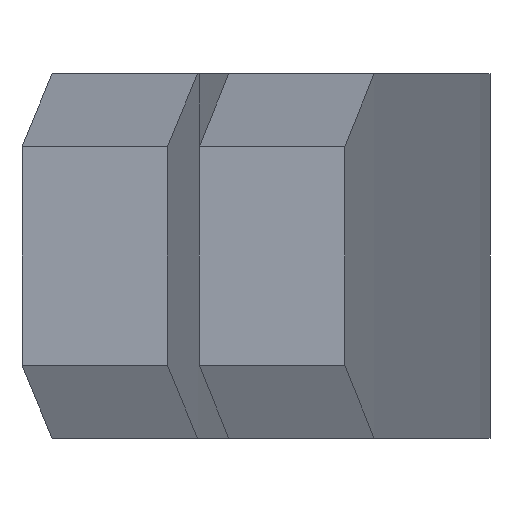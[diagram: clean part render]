
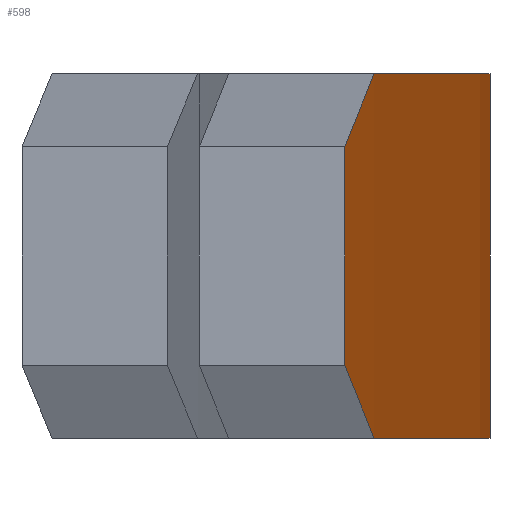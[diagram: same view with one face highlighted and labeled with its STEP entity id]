
A CAD part, left-side view. The second image highlights one B-rep face of the part: STEP entity #598.
In plain terms, the highlighted free-form (B-spline) face has degree [3, 1] with [6, 2] control points.
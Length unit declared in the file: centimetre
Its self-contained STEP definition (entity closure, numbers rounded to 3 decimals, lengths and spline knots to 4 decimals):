
#317=VERTEX_POINT('',#1535);
#318=VERTEX_POINT('',#1536);
#323=VERTEX_POINT('',#1561);
#331=VERTEX_POINT('',#1666);
#332=VERTEX_POINT('',#1667);
#334=VERTEX_POINT('',#1732);
#335=VERTEX_POINT('',#1788);
#336=VERTEX_POINT('',#1795);
#349=B_SPLINE_CURVE_WITH_KNOTS('',3,(#1531,#1532,#1533,#1534),.UNSPECIFIED.,
.F.,.U.,(4,4),(-0.5099,0.),.UNSPECIFIED.);
#353=B_SPLINE_CURVE_WITH_KNOTS('',3,(#1562,#1563,#1564,#1565,#1566,#1567),
.UNSPECIFIED.,.F.,.U.,(4,2,4),(0.5173,4.5069,8.4966),
.UNSPECIFIED.);
#358=B_SPLINE_CURVE_WITH_KNOTS('',3,(#1662,#1663,#1664,#1665),.UNSPECIFIED.,
.F.,.U.,(4,4),(-0.5099,0.),.UNSPECIFIED.);
#360=B_SPLINE_CURVE_WITH_KNOTS('',3,(#1728,#1729,#1730,#1731),.UNSPECIFIED.,
.F.,.U.,(4,4),(-0.5099,0.),.UNSPECIFIED.);
#362=B_SPLINE_CURVE_WITH_KNOTS('',3,(#1791,#1792,#1793,#1794),.UNSPECIFIED.,
.F.,.U.,(4,4),(-0.5099,0.),.UNSPECIFIED.);
#363=B_SPLINE_CURVE_WITH_KNOTS('',3,(#1809,#1810,#1811,#1812,#1813,#1814),
.UNSPECIFIED.,.F.,.U.,(4,2,4),(0.5173,4.5069,8.4966),
.UNSPECIFIED.);
#388=EDGE_CURVE('',#317,#318,#349,.T.);
#395=EDGE_CURVE('',#318,#323,#353,.F.);
#405=EDGE_CURVE('',#331,#332,#358,.T.);
#410=EDGE_CURVE('',#332,#317,#865,.T.);
#411=EDGE_CURVE('',#323,#334,#360,.T.);
#415=EDGE_CURVE('',#335,#334,#868,.T.);
#416=EDGE_CURVE('',#335,#336,#362,.T.);
#418=EDGE_CURVE('',#336,#331,#363,.T.);
#518=ORIENTED_EDGE('',*,*,#388,.T.);
#519=ORIENTED_EDGE('',*,*,#395,.T.);
#520=ORIENTED_EDGE('',*,*,#411,.T.);
#521=ORIENTED_EDGE('',*,*,#415,.F.);
#522=ORIENTED_EDGE('',*,*,#416,.T.);
#523=ORIENTED_EDGE('',*,*,#418,.T.);
#524=ORIENTED_EDGE('',*,*,#405,.T.);
#525=ORIENTED_EDGE('',*,*,#410,.T.);
#552=EDGE_LOOP('',(#518,#519,#520,#521,#522,#523,#524,#525));
#575=FACE_BOUND('',#552,.T.);
#598=ADVANCED_FACE('',(#575),#612,.T.);
#612=B_SPLINE_SURFACE_WITH_KNOTS('',3,1,((#1797,#1798),(#1799,#1800),(#1801,
#1802),(#1803,#1804),(#1805,#1806),(#1807,#1808)),.UNSPECIFIED.,.F.,.F.,
.U.,(4,2,4),(2,2),(0.5173,4.5069,8.4966),
(0.,0.5),.UNSPECIFIED.);
#865=LINE('',#1726,#1169);
#868=LINE('',#1789,#1172);
#1169=VECTOR('',#1899,1.);
#1172=VECTOR('',#1904,1.);
#1531=CARTESIAN_POINT('',(4.0082,-0.0928,0.15));
#1532=CARTESIAN_POINT('',(3.8421,-0.1065,0.1833));
#1533=CARTESIAN_POINT('',(3.676,-0.12,0.2167));
#1534=CARTESIAN_POINT('',(3.5098,-0.1331,0.25));
#1535=CARTESIAN_POINT('',(4.0082,-0.0928,0.15));
#1536=CARTESIAN_POINT('',(3.5098,-0.1331,0.25));
#1561=CARTESIAN_POINT('',(-3.5098,-0.1331,0.25));
#1562=CARTESIAN_POINT('',(-4.0082,-0.0928,0.25));
#1563=CARTESIAN_POINT('',(-2.6787,-0.2022,0.25));
#1564=CARTESIAN_POINT('',(-1.3426,-0.301,0.25));
#1565=CARTESIAN_POINT('',(1.3426,-0.301,0.25));
#1566=CARTESIAN_POINT('',(2.6787,-0.2022,0.25));
#1567=CARTESIAN_POINT('',(4.0082,-0.0928,0.25));
#1662=CARTESIAN_POINT('',(3.5098,-0.1331,-0.25));
#1663=CARTESIAN_POINT('',(3.676,-0.12,-0.2167));
#1664=CARTESIAN_POINT('',(3.8421,-0.1065,-0.1833));
#1665=CARTESIAN_POINT('',(4.0082,-0.0928,-0.15));
#1666=CARTESIAN_POINT('',(3.5098,-0.1331,-0.25));
#1667=CARTESIAN_POINT('',(4.0082,-0.0928,-0.15));
#1726=CARTESIAN_POINT('',(4.0082,-0.0928,-0.25));
#1728=CARTESIAN_POINT('',(-3.5098,-0.1331,0.25));
#1729=CARTESIAN_POINT('',(-3.676,-0.12,0.2167));
#1730=CARTESIAN_POINT('',(-3.8421,-0.1065,0.1833));
#1731=CARTESIAN_POINT('',(-4.0082,-0.0928,0.15));
#1732=CARTESIAN_POINT('',(-4.0082,-0.0928,0.15));
#1788=CARTESIAN_POINT('',(-4.0082,-0.0928,-0.15));
#1789=CARTESIAN_POINT('',(-4.0082,-0.0928,-0.25));
#1791=CARTESIAN_POINT('',(-4.0082,-0.0928,-0.15));
#1792=CARTESIAN_POINT('',(-3.8421,-0.1065,-0.1833));
#1793=CARTESIAN_POINT('',(-3.676,-0.12,-0.2167));
#1794=CARTESIAN_POINT('',(-3.5098,-0.1331,-0.25));
#1795=CARTESIAN_POINT('',(-3.5098,-0.1331,-0.25));
#1797=CARTESIAN_POINT('',(-4.0082,-0.0928,-0.25));
#1798=CARTESIAN_POINT('',(-4.0082,-0.0928,0.25));
#1799=CARTESIAN_POINT('',(-2.6787,-0.2022,-0.25));
#1800=CARTESIAN_POINT('',(-2.6787,-0.2022,0.25));
#1801=CARTESIAN_POINT('',(-1.3426,-0.301,-0.25));
#1802=CARTESIAN_POINT('',(-1.3426,-0.301,0.25));
#1803=CARTESIAN_POINT('',(1.3426,-0.301,-0.25));
#1804=CARTESIAN_POINT('',(1.3426,-0.301,0.25));
#1805=CARTESIAN_POINT('',(2.6787,-0.2022,-0.25));
#1806=CARTESIAN_POINT('',(2.6787,-0.2022,0.25));
#1807=CARTESIAN_POINT('',(4.0082,-0.0928,-0.25));
#1808=CARTESIAN_POINT('',(4.0082,-0.0928,0.25));
#1809=CARTESIAN_POINT('',(-4.0082,-0.0928,-0.25));
#1810=CARTESIAN_POINT('',(-2.6787,-0.2022,-0.25));
#1811=CARTESIAN_POINT('',(-1.3426,-0.301,-0.25));
#1812=CARTESIAN_POINT('',(1.3426,-0.301,-0.25));
#1813=CARTESIAN_POINT('',(2.6787,-0.2022,-0.25));
#1814=CARTESIAN_POINT('',(4.0082,-0.0928,-0.25));
#1899=DIRECTION('',(0.,0.,1.));
#1904=DIRECTION('',(0.,0.,1.));
